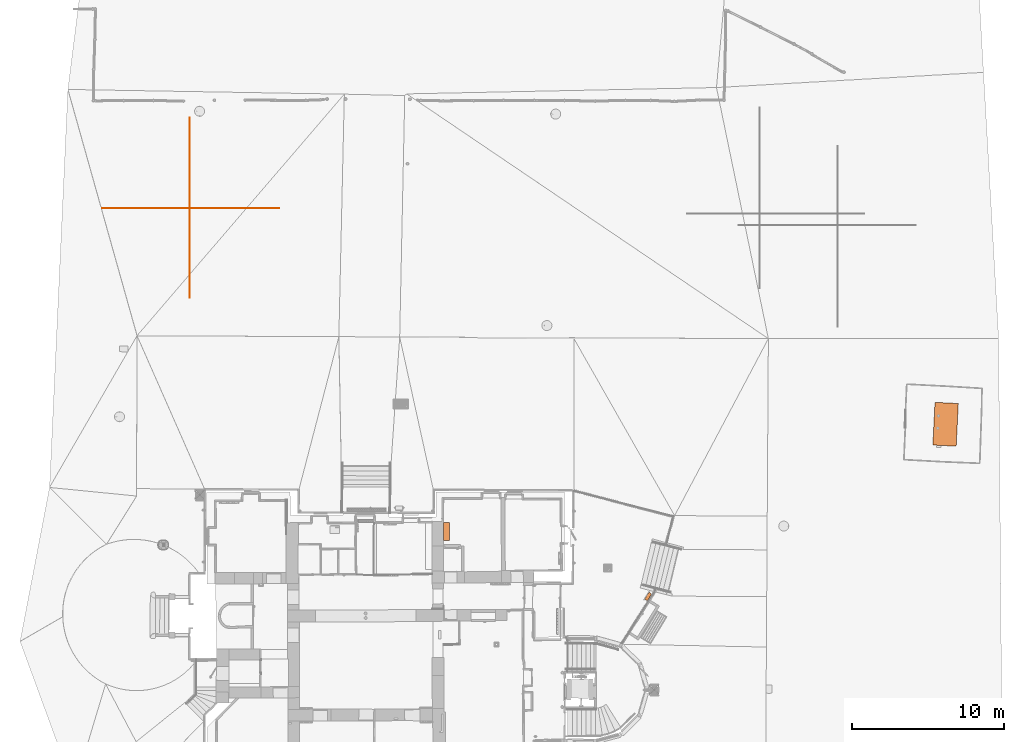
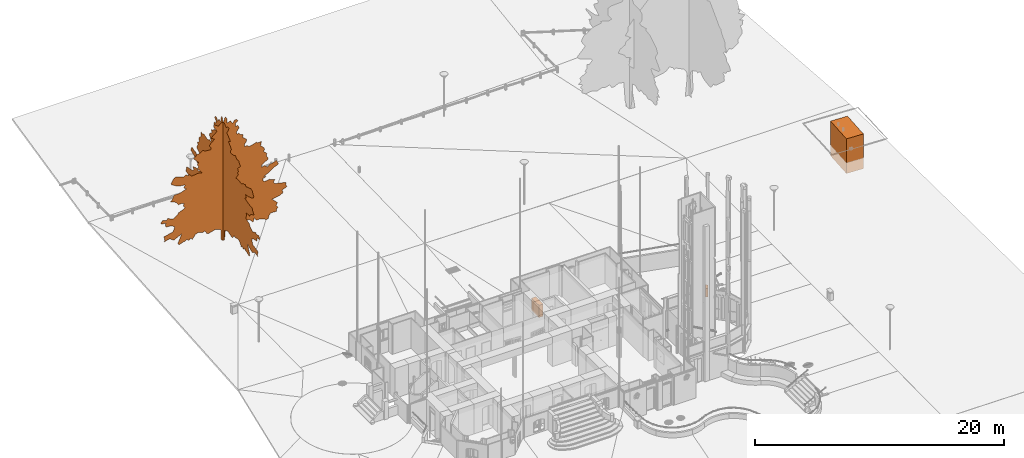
# One storey, part 129 of 133: 4 proxies.
"""IFC2X3 building model written with IfcOpenShell, lengths in centimetres."""

from ifc_helpers import new_model, entity, si_unit, converted_unit, direction, frame, origin, origin_with_axes, place, context, subcontext, project, spatial, faceted_brep, source, transform, mapped, material, element, save


model = new_model("IFC2X3")

# Units and contexts
model_context = context("Model", 3, precision=0.0001, world=origin(), true_north=direction((0.225632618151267, 0.974212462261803, 0.0)))
body_context = subcontext(model_context, "Body", "Model", "MODEL_VIEW")
ifc_project = project(units=[si_unit("LENGTHUNIT", "METRE", prefix="CENTI"), si_unit("AREAUNIT", "SQUARE_METRE", prefix="CENTI"), si_unit("VOLUMEUNIT", "CUBIC_METRE", prefix="CENTI"), converted_unit("PLANEANGLEUNIT", "DEGREE", entity("IfcRatioMeasure", 0.0174532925), si_unit("PLANEANGLEUNIT", "RADIAN"), dimensions=[0, 0, 0, 0, 0, 0, 0])], contexts=[model_context])

# Site, building, storey
site_placement = place(None, origin_with_axes())
site = spatial("IfcSite", under=ifc_project, at=site_placement, Name="Default Site", CompositionType="ELEMENT")
building_placement = place(site_placement, origin_with_axes())
building = spatial("IfcBuilding", under=site, at=building_placement, Name="Default Building", CompositionType="ELEMENT")
storey_placement = place(building_placement, frame((0.0, 0.0, -291.400371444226), z_axis=(0.0, 0.0, 1.0), x_axis=(1.0, 0.0, 0.0)))
storey = spatial("IfcBuildingStorey", under=building, at=storey_placement, Name="Rez-de-Jardin", CompositionType="ELEMENT", Elevation=-291.400371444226)

# Proxies
ifc_material_1 = material(Name="<Nouvel Arbre...> Élévation")
shared_shape = source(origin_with_axes(), body_context, "Body", "Brep", [
    faceted_brep([(391.210198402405, -1.3283548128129e-05, 303.892183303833), (430.132341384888, -1.35452921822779e-05, 309.880208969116), (433.126354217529, -1.31526752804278e-05, 300.898170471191), (424.144315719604, -1.13204644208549e-05, 258.982014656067), (463.066482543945, -9.61912416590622e-06, 220.059847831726), (469.054508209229, -8.57214630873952e-06, 196.107757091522), (457.078456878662, -7.65604097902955e-06, 175.14967918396), (496.000623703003, -6.08557353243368e-06, 139.22153711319), (487.018585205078, -5.0385953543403e-06, 115.269434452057), (510.970687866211, -3.3372560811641e-06, 76.3472855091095), (504.982662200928, -2.6828949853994e-06, 61.377227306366), (436.120367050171, -8.50684340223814e-07, 19.4610580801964), (433.126354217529, 4.58038101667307e-07, -10.4790613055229), (472.04852104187, 6.54218823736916e-08, -1.49702560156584), (498.994636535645, 1.24327251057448e-06, -28.4431338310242), (531.928777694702, 6.54226829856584e-08, -1.49702560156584), (552.886867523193, 1.96295209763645e-07, -4.49103750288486), (603.785037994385, -7.19809811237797e-07, 16.4670452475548), (624.743127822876, 1.24327419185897e-06, -28.4431338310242), (621.749114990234, 1.76676304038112e-06, -40.4191792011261), (570.850896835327, 2.68286811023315e-06, -61.3772630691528), (522.946739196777, 4.38420668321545e-06, -100.299417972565), (466.060495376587, 5.56205598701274e-06, -127.24552154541), (463.066482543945, 5.82380052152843e-06, -133.233547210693), (487.018585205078, 6.21641770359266e-06, -142.215585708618), (448.096418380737, 6.73990633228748e-06, -154.191637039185), (451.090431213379, 8.04862872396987e-06, -184.131753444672), (472.04852104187, 8.57211815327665e-06, -196.107804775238), (525.940752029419, 8.17950201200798e-06, -187.125766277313), (546.89884185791, 8.83386320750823e-06, -202.095818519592), (588.814973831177, 9.22648062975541e-06, -211.077857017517), (567.856884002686, 1.04043309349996e-05, -238.023972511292), (585.820960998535, 1.1451308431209e-05, -261.976051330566), (714.563465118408, 1.28909053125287e-05, -294.910192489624), (708.575487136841, 1.40687558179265e-05, -321.856307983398), (723.545503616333, 1.52466055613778e-05, -348.802399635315), (672.647333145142, 1.61627108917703e-05, -369.760489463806), (666.659307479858, 1.64244553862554e-05, -375.748515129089), (681.629371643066, 1.74714338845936e-05, -399.700617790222), (669.6533203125, 1.79949218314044e-05, -411.676645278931), (636.719179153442, 1.87801551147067e-05, -429.64072227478), (552.886867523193, 1.93036431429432e-05, -441.616773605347), (615.761089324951, 2.21828343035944e-05, -507.485055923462), (597.797012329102, 2.33606825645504e-05, -534.431123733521), (618.755102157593, 2.46694057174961e-05, -564.371252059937), (606.779050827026, 2.54546392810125e-05, -582.335329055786), (606.779050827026, 2.66324898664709e-05, -609.281444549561), (537.916803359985, 2.65016166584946e-05, -606.287431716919), (519.952726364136, 2.7417722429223e-05, -627.24552154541), (510.970687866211, 2.91190620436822e-05, -666.167688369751), (496.000623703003, 2.92499341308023e-05, -669.161701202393), (415.16227722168, 2.78103378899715e-05, -636.227560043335), (376.240134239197, 2.78103373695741e-05, -636.227560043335), (352.288055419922, 2.62398696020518e-05, -600.299406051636), (343.306016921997, 2.7941209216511e-05, -639.221572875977), (334.323978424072, 2.80720813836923e-05, -642.215585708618), (295.401811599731, 2.62398688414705e-05, -600.299406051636), (259.47368144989, 2.59781237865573e-05, -594.311380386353), (226.539540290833, 2.66324847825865e-05, -609.281444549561), (139.713215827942, 2.40150378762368e-05, -549.401187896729), (115.761125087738, 2.58472495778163e-05, -591.317367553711), (94.8030352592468, 2.61089938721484e-05, -597.305393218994), (52.8868675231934, 2.38841644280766e-05, -546.407175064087), (37.9168093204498, 2.42767810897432e-05, -555.389213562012), (28.934770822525, 2.51928869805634e-05, -576.347303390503), (16.9587254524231, 3.13438822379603e-05, -717.065858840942), (13.9647126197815, 3.21291159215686e-05, -735.029935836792), (-3.99935841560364, 3.27834771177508e-05, -750.0), (-27.951455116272, 3.17364984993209e-05, -726.047897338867), (-27.951455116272, 2.66324813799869e-05, -609.281444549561), (-69.867616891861, 2.57163748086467e-05, -588.323354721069), (-96.8137264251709, 2.55855021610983e-05, -585.329341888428), (-165.67599773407, 2.65016072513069e-05, -606.287431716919), (-186.634087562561, 2.61089901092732e-05, -597.305393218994), (-207.592177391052, 2.44076500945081e-05, -558.383226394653), (-219.568228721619, 2.49311390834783e-05, -570.35927772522), (-291.424512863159, 2.41459043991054e-05, -552.39520072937), (-315.376615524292, 2.46693932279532e-05, -564.371252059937), (-351.304745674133, 2.67633493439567e-05, -612.275457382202), (-354.298758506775, 2.61089878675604e-05, -597.305393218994), (-372.262835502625, 2.58472430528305e-05, -591.317367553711), (-390.226912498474, 2.67633488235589e-05, -612.275457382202), (-414.178991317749, 2.57163702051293e-05, -588.323354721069), (-441.125106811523, 2.66324758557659e-05, -609.281444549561), (-441.125106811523, 2.63707312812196e-05, -603.293418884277), (-501.005363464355, 2.72868364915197e-05, -624.251508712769), (-512.981414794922, 2.66324748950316e-05, -609.281444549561), (-509.98740196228, 2.59781134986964e-05, -594.311380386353), (-471.065235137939, 2.19210751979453e-05, -501.497030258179), (-560.885572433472, 2.38841562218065e-05, -546.407175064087), (-605.795764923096, 2.24445625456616e-05, -513.473081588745), (-671.663999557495, 2.30989210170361e-05, -528.443098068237), (-662.682008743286, 2.23136894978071e-05, -510.479068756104), (-671.663999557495, 2.03506050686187e-05, -465.568876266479), (-569.867610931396, 1.93036281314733e-05, -441.616773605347), (-548.909521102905, 1.69479282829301e-05, -387.724566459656), (-584.837675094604, 1.57700772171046e-05, -360.778450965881), (-644.717931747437, 1.55083318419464e-05, -354.790425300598), (-656.693983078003, 1.48539702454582e-05, -339.82036113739), (-650.70595741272, 1.35452484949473e-05, -309.880256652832), (-698.61011505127, 1.30217587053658e-05, -297.904205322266), (-710.586166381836, 1.2629141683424e-05, -288.922166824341), (-686.634063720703, 1.13204191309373e-05, -258.982038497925), (-641.723918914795, 1.19747811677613e-05, -273.952102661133), (-629.747867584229, 1.11895476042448e-05, -255.988025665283), (-563.879585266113, 1.26291436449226e-05, -288.922166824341), (-563.879585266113, 1.23673990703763e-05, -282.934141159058), (-515.975427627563, 1.092780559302e-05, -250.000023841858), (-503.999376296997, 1.00116997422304e-05, -229.041934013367), (-438.131093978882, 8.8338500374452e-06, -202.095818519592), (-435.13708114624, 8.31036144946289e-06, -190.119779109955), (-453.10115814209, 7.26338291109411e-06, -166.167676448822), (-444.119119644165, 5.95466067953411e-06, -136.227560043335), (-489.029312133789, 5.56204321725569e-06, -127.24552154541), (-503.999376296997, 5.95465987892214e-06, -136.227560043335), (-536.933469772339, 3.9915759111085e-06, -91.3173854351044), (-596.813726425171, 2.81372478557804e-06, -64.3712759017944), (-575.85563659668, 1.76674702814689e-06, -40.4191792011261), (-557.89155960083, -6.54641347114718e-08, 1.49698629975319), (-492.023324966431, -1.96335508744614e-07, 4.49099838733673), (-417.173004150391, -1.37418470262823e-06, 31.4371049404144), (-447.113132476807, -2.2902908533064e-06, 52.3951888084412), (-429.149055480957, -3.72988525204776e-06, 85.3293180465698), (-480.047273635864, -3.99163050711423e-06, 91.317343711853), (-533.939456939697, -4.77686495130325e-06, 109.281420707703), (-587.831687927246, -6.21646031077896e-06, 142.215549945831), (-590.825700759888, -6.87082126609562e-06, 157.18560218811), (-557.89155960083, -9.22652095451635e-06, 211.077809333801), (-533.939456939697, -9.619137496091e-06, 220.059847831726), (-444.119119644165, -8.17954165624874e-06, 187.125718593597), (-423.161029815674, -8.83390333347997e-06, 202.095794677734), (-393.220925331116, -8.17954097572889e-06, 187.125718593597), (-381.244874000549, -8.44128539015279e-06, 193.113744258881), (-360.286784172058, -7.26343504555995e-06, 166.167640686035), (-273.46043586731, -7.65605074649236e-06, 175.14967918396), (-237.532305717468, -7.13256111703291e-06, 163.173627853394), (-294.418525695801, -1.04043680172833e-05, 238.023924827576), (-276.454448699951, -1.10587292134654e-05, 252.993988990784), (-294.418525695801, -1.21057077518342e-05, 276.946091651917), (-279.448461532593, -1.34144293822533e-05, 306.886196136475), (-336.334681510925, -1.61627471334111e-05, 369.76044178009), (-312.38260269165, -1.69479805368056e-05, 387.72451877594), (-300.406551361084, -1.7994957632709e-05, 411.676597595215), (-264.478397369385, -1.78640848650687e-05, 408.682584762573), (-234.538292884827, -1.90419350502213e-05, 435.628700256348), (-201.604151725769, -1.82567008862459e-05, 417.664623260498), (-141.723906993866, -1.79949555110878e-05, 411.676597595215), (-135.735881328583, -1.89110614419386e-05, 432.634687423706), (-156.693959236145, -2.0088912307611e-05, 459.58080291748), (-153.699946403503, -2.07432737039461e-05, 474.550867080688), (-99.8077392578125, -2.29681018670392e-05, 525.449085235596), (-138.729894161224, -2.41459508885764e-05, 552.395153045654), (-69.867616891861, -2.67633957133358e-05, 612.275409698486), (-105.795764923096, -2.93808419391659e-05, 672.155666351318), (-108.789777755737, -3.04278202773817e-05, 696.107769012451), (-90.8257007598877, -3.04278200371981e-05, 696.107769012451), (-54.8975586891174, -2.92499689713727e-05, 669.161653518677), (-18.9694181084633, -3.06895636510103e-05, 702.095794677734), (4.98267710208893, -3.05586910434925e-05, 699.101781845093), (16.9587254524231, -3.23909008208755e-05, 741.017913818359), (28.934770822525, -3.27835175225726e-05, 749.999952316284), (43.904834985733, -3.16056667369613e-05, 723.05383682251), (40.9108221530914, -2.93808399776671e-05, 672.155666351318), (82.8269898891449, -2.99043285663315e-05, 684.131717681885), (106.779086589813, -2.82029885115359e-05, 645.209550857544), (127.737164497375, -2.96425833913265e-05, 678.143692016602), (148.695254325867, -2.97734553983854e-05, 681.137704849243), (166.659319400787, -2.87264768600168e-05, 657.18560218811), (136.7192029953, -2.75486266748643e-05, 630.239486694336), (139.713215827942, -2.61090314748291e-05, 597.305345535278), (166.659319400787, -2.6239903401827e-05, 600.29935836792), (181.629383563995, -2.48003080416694e-05, 567.365217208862), (151.689267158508, -2.29680985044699e-05, 525.449085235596), (154.683268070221, -2.17902478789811e-05, 498.502969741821), (160.671293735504, -2.16593755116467e-05, 495.50895690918), (175.641357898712, -2.20519921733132e-05, 504.490995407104), (196.599435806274, -2.07432690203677e-05, 474.550867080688), (223.545527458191, -2.04815240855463e-05, 468.562841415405), (220.551514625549, -1.89110566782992e-05, 432.634687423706), (265.461707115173, -1.72097173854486e-05, 393.712544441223), (265.461707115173, -1.64244836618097e-05, 375.748467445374), (238.515591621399, -1.45922730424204e-05, 333.832311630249), (238.515591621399, -1.35452947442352e-05, 309.880208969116), (271.449732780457, -1.38070388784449e-05, 315.868234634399), (295.401811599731, -1.28909325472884e-05, 294.910144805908), (382.22815990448, -1.39379096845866e-05, 318.862247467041), (-3.81679328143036e-06, 391.210198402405, 303.892183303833), (-5.25639012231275e-06, 430.132341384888, 309.880208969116), (-5.77987954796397e-06, 433.126354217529, 300.898170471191), (-7.21947332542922e-06, 424.144315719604, 258.982014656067), (-1.0622155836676e-05, 463.066482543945, 220.059847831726), (-1.19308787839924e-05, 469.054508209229, 196.107757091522), (-1.23234944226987e-05, 457.078456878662, 175.14967918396), (-1.55953041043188e-05, 496.000623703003, 139.22153711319), (-1.62496650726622e-05, 487.018585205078, 115.269434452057), (-1.89979843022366e-05, 510.970687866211, 76.3472855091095), (-1.939060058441e-05, 504.982662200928, 61.377227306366), (-1.82127449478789e-05, 436.120367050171, 19.4610580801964), (-1.93905951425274e-05, 433.126354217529, -10.4790613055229), (-2.0699320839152e-05, 472.04852104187, -1.49702560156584), (-2.3055023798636e-05, 498.994636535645, -28.4431338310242), (-2.33167708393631e-05, 531.928777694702, -1.49702560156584), (-2.43637506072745e-05, 552.886867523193, -4.49103750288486), (-2.56724751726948e-05, 603.785037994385, 16.4670452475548), (-2.85516667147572e-05, 624.743127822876, -28.4431338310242), (-2.89442831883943e-05, 621.749114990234, -40.4191792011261), (-2.76355565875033e-05, 570.850896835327, -61.3772630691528), (-2.72429381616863e-05, 522.946739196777, -100.299417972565), (-2.5934210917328e-05, 466.060495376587, -127.24552154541), (-2.60650830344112e-05, 463.066482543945, -133.233547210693), (-2.75046799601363e-05, 487.018585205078, -142.215585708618), (-2.63268266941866e-05, 448.096418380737, -154.191637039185), (-2.77664217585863e-05, 451.090431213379, -184.131753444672), (-2.92060184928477e-05, 472.04852104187, -196.107804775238), (-3.11691065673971e-05, 525.940752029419, -187.125766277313), (-3.27395750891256e-05, 546.89884185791, -202.095818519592), (-3.4964404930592e-05, 588.814973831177, -211.077857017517), (-3.52261482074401e-05, 567.856884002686, -238.023972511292), (-3.7058360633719e-05, 585.820960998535, -261.976051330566), (-4.41254714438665e-05, 714.563465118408, -294.910192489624), (-4.50415793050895e-05, 708.575487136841, -321.856307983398), (-4.68737894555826e-05, 723.545503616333, -348.802399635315), (-4.55650651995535e-05, 672.647333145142, -369.760489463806), (-4.55650648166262e-05, 666.659307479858, -375.748515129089), (-4.72664057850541e-05, 681.629371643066, -399.700617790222), (-4.72664039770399e-05, 669.6533203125, -411.676645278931), (-4.66120403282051e-05, 636.719179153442, -429.64072227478), (-4.34711016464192e-05, 552.886867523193, -441.616773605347), (-4.90986128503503e-05, 615.761089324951, -507.485055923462), (-4.94912265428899e-05, 597.797012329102, -534.431123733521), (-5.17160571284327e-05, 618.755102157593, -564.371252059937), (-5.19778009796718e-05, 606.779050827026, -582.335329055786), (-5.31556517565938e-05, 606.779050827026, -609.281444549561), (-5.00147140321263e-05, 537.916803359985, -606.287431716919), (-5.01455851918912e-05, 519.952726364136, -627.24552154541), (-5.1454307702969e-05, 510.970687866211, -666.167688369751), (-5.09308175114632e-05, 496.000623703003, -669.161701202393), (-4.59576646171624e-05, 415.16227722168, -636.227560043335), (-4.42563231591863e-05, 376.240134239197, -636.227560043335), (-4.16388764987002e-05, 352.288055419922, -600.299406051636), (-4.29475990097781e-05, 343.306016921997, -639.221572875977), (-4.26858538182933e-05, 334.323978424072, -642.215585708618), (-3.91522989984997e-05, 295.401811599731, -600.299406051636), (-3.73200854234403e-05, 259.47368144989, -594.311380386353), (-3.65348494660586e-05, 226.539540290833, -609.281444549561), (-3.01221028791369e-05, 139.713215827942, -549.401187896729), (-3.09073357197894e-05, 115.761125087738, -591.317367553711), (-3.02529728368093e-05, 94.8030352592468, -597.305393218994), (-2.61959291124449e-05, 52.8868675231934, -546.407175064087), (-2.5934183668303e-05, 37.9168063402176, -555.389213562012), (-2.64576724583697e-05, 28.934770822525, -576.347303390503), (-3.20851790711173e-05, 16.958723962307, -717.065858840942), (-3.27395404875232e-05, 13.9647126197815, -735.029935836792), (-3.26086672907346e-05, -3.99935841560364, -750.0), (-3.05147090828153e-05, -27.951455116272, -726.047897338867), (-2.54106911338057e-05, -27.951455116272, -609.281444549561), (-2.26623707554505e-05, -69.867616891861, -588.323354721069), (-2.13536462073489e-05, -96.8137264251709, -585.329341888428), (-1.92596859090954e-05, -165.67599773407, -606.287431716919), (-1.79509614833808e-05, -186.634087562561, -597.305393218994), (-1.53335139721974e-05, -207.592177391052, -558.383226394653), (-1.53335132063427e-05, -219.568228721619, -570.35927772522), (-1.14073403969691e-05, -291.424512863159, -552.39520072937), (-1.08838496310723e-05, -315.376615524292, -564.371252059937), (-1.14073376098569e-05, -351.304745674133, -612.275457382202), (-1.06221035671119e-05, -354.298758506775, -597.305393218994), (-9.57512394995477e-06, -372.262835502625, -591.317367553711), (-9.70599510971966e-06, -390.226912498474, -612.275457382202), (-7.61203768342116e-06, -414.178991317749, -588.323354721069), (-7.35029134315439e-06, -441.125106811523, -609.281444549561), (-7.08854672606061e-06, -441.125106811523, -603.293418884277), (-5.38720288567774e-06, -501.005363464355, -624.251508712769), (-4.20935134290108e-06, -512.981414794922, -609.281444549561), (-3.68586230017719e-06, -509.98740196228, -594.311380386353), (-1.33016531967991e-06, -471.065235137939, -501.497030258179), (6.3292505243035e-07, -560.885572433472, -546.407175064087), (4.03560586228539e-06, -605.795764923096, -513.473081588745), (6.2604393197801e-06, -671.663999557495, -528.443098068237), (6.65305567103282e-06, -662.682008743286, -510.479068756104), (9.00875571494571e-06, -671.663999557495, -465.568876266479), (5.60607126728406e-06, -569.867610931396, -441.616773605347), (7.04566427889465e-06, -548.909521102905, -387.724566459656), (9.79398505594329e-06, -584.837675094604, -360.778450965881), (1.26731796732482e-05, -644.717931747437, -354.790425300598), (1.38510312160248e-05, -656.693983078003, -339.82036113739), (1.48980082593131e-05, -650.70595741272, -309.880256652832), (1.75154554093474e-05, -698.61011505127, -297.904205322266), (1.84315623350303e-05, -710.586166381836, -288.922166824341), (1.86933054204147e-05, -686.634063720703, -258.982038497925), (1.60758584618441e-05, -641.723918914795, -273.952102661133), (1.63376023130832e-05, -629.747867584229, -255.988025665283), (1.20188119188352e-05, -563.879585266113, -288.922166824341), (1.2280556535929e-05, -563.879585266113, -282.934141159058), (1.16261929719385e-05, -515.975427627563, -250.000023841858), (1.20188091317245e-05, -503.999376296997, -229.041934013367), (1.03174649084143e-05, -438.131093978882, -202.095818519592), (1.07100811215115e-05, -435.13708114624, -190.119779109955), (1.25422945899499e-05, -453.10115814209, -166.167676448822), (1.34583996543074e-05, -444.119119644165, -136.227560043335), (1.58141040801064e-05, -489.029312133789, -127.24552154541), (1.60758496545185e-05, -503.999376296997, -136.227560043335), (1.94785289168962e-05, -536.933469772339, -91.3173854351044), (2.32738294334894e-05, -596.813726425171, -64.3712759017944), (2.34047001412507e-05, -575.85563659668, -40.4191792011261), (2.44516768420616e-05, -557.89155960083, 1.49698629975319), (2.17033562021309e-05, -492.023324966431, 4.49099838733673), (1.96093940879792e-05, -417.173004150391, 31.4371049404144), (2.18342249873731e-05, -447.113132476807, 52.3951888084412), (2.24885848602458e-05, -429.149055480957, 85.3293180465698), (2.4975161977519e-05, -480.047273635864, 91.317343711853), (2.81160987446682e-05, -533.939456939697, 109.281420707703), (3.19113986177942e-05, -587.831687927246, 142.215549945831), (3.26966321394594e-05, -590.825700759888, 157.18560218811), (3.36127351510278e-05, -557.89155960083, 211.077809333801), (3.2958372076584e-05, -533.939456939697, 220.059847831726), (2.75926042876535e-05, -444.119119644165, 187.125718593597), (2.73308588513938e-05, -423.161029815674, 202.095794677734), (2.53677728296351e-05, -393.220925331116, 187.125718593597), (2.51060274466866e-05, -381.244874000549, 193.113744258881), (2.30120696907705e-05, -360.286784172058, 166.167640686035), (1.96093851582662e-05, -273.46043586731, 175.14967918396), (1.7515426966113e-05, -237.532305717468, 163.173627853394), (2.32738100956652e-05, -294.418525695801, 238.023924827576), (2.31429366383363e-05, -276.454448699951, 252.993988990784), (2.49751501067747e-05, -294.418525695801, 276.946091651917), (2.56295096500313e-05, -279.448461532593, 306.886196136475), (3.08644035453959e-05, -336.334681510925, 369.76044178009), (3.06026584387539e-05, -312.38260269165, 387.72451877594), (3.11261458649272e-05, -300.406551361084, 411.676597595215), (2.94248035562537e-05, -264.478397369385, 408.682584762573), (2.92939303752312e-05, -234.538292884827, 435.628700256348), (2.70690990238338e-05, -201.604151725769, 417.664623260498), (2.41899049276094e-05, -141.723906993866, 411.676597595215), (2.48442660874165e-05, -135.735881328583, 432.634687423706), (2.69382238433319e-05, -156.693959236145, 459.58080291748), (2.74617128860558e-05, -153.699946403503, 474.550867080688), (2.73308381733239e-05, -99.8077392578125, 525.449085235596), (3.02100288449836e-05, -138.729894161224, 552.395153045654), (2.98174082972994e-05, -69.867616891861, 612.275409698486), (3.40053242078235e-05, -105.795764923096, 672.155666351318), (3.51831751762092e-05, -108.789777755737, 696.107769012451), (3.43979401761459e-05, -90.8257007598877, 696.107769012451), (3.16496199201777e-05, -54.8975586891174, 669.161653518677), (3.15187459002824e-05, -18.9694181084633, 702.095794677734), (3.03408939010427e-05, 4.98267747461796, 699.101781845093), (3.16496142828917e-05, 16.9587254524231, 741.017913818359), (3.15187413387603e-05, 28.9347738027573, 749.999952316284), (2.96865281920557e-05, 43.904834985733, 723.05383682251), (2.75925735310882e-05, 40.9108221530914, 672.155666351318), (2.62838482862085e-05, 82.8269898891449, 684.131717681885), (2.35355285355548e-05, 106.779086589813, 645.209550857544), (2.40590169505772e-05, 127.737164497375, 678.143692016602), (2.32737817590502e-05, 148.695254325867, 681.137704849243), (2.14415688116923e-05, 166.659319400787, 657.18560218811), (2.15724425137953e-05, 136.7192029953, 630.239486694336), (2.0001974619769e-05, 139.713215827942, 597.305345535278), (1.89549949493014e-05, 166.659319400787, 600.29935836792), (1.68610370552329e-05, 181.629383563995, 567.365217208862), (1.63375512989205e-05, 151.689267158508, 525.449085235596), (1.50288285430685e-05, 154.683268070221, 498.502969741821), (1.46362112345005e-05, 160.671293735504, 495.50895690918), (1.43744656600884e-05, 175.641357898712, 504.490995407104), (1.21496355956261e-05, 196.599435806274, 474.550867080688), (1.07100395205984e-05, 223.545527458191, 468.562841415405), (9.2704443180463e-06, 220.551514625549, 432.634687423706), (5.60601784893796e-06, 265.461707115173, 393.712544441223), (4.82078399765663e-06, 265.461707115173, 375.748467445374), (4.16642522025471e-06, 238.515591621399, 333.832311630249), (3.1194467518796e-06, 238.515591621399, 309.880208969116), (1.94159386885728e-06, 271.449732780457, 315.868234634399), (-2.14912488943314e-08, 295.401811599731, 294.910144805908), (-2.76981423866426e-06, 382.22815990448, 318.862247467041)], [[[0, 1, 2, 3, 4, 5, 6, 7, 8, 9, 10, 11, 12, 13, 14, 15, 16, 17, 18, 19, 20, 21, 22, 23, 24, 25, 26, 27, 28, 29, 30, 31, 32, 33, 34, 35, 36, 37, 38, 39, 40, 41, 42, 43, 44, 45, 46, 47, 48, 49, 50, 51, 52, 53, 54, 55, 56, 57, 58, 59, 60, 61, 62, 63, 64, 65, 66, 67, 68, 69, 70, 71, 72, 73, 74, 75, 76, 77, 78, 79, 80, 81, 82, 83, 84, 85, 86, 87, 88, 89, 90, 91, 92, 93, 94, 95, 96, 97, 98, 99, 100, 101, 102, 103, 104, 105, 106, 107, 108, 109, 110, 111, 112, 113, 114, 115, 116, 117, 118, 119, 120, 121, 122, 123, 124, 125, 126, 127, 128, 129, 130, 131, 132, 133, 134, 135, 136, 137, 138, 139, 140, 141, 142, 143, 144, 145, 146, 147, 148, 149, 150, 151, 152, 153, 154, 155, 156, 157, 158, 159, 160, 161, 162, 163, 164, 165, 166, 167, 168, 169, 170, 171, 172, 173, 174, 175, 176, 177, 178, 179, 180, 181, 182, 183, 184, 185]], [[186, 187, 188, 189, 190, 191, 192, 193, 194, 195, 196, 197, 198, 199, 200, 201, 202, 203, 204, 205, 206, 207, 208, 209, 210, 211, 212, 213, 214, 215, 216, 217, 218, 219, 220, 221, 222, 223, 224, 225, 226, 227, 228, 229, 230, 231, 232, 233, 234, 235, 236, 237, 238, 239, 240, 241, 242, 243, 244, 245, 246, 247, 248, 249, 250, 251, 252, 253, 254, 255, 256, 257, 258, 259, 260, 261, 262, 263, 264, 265, 266, 267, 268, 269, 270, 271, 272, 273, 274, 275, 276, 277, 278, 279, 280, 281, 282, 283, 284, 285, 286, 287, 288, 289, 290, 291, 292, 293, 294, 295, 296, 297, 298, 299, 300, 301, 302, 303, 304, 305, 306, 307, 308, 309, 310, 311, 312, 313, 314, 315, 316, 317, 318, 319, 320, 321, 322, 323, 324, 325, 326, 327, 328, 329, 330, 331, 332, 333, 334, 335, 336, 337, 338, 339, 340, 341, 342, 343, 344, 345, 346, 347, 348, 349, 350, 351, 352, 353, 354, 355, 356, 357, 358, 359, 360, 361, 362, 363, 364, 365, 366, 367, 368, 369, 370, 371]]]),
])
proxy_1_placement = place(storey_placement, frame((-1368.09391182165, 2577.73743797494, 113.288034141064), z_axis=(0.0, 0.0, 1.0), x_axis=(1.0, 0.0, 0.0)))
element("IfcBuildingElementProxy", 1, at=proxy_1_placement, inside=storey, material=ifc_material_1, Name="Arbre 303642", context=body_context, shape_type="MappedRepresentation", body=[
    mapped(shared_shape, transform((5.18376231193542, 35.5055379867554, 598.4), x_axis=(1.0, 0.0, 0.0), y_axis=(0.0, 1.0, 0.0), z_axis=(0.0, 0.0, 1.0), scale=0.817481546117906, scale2=0.831484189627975, scale3=0.800000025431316, uniform=False)),
])
ifc_material_2 = material(Name="Blanc")
proxy_2_placement = place(storey_placement, frame((3532.21, 1339.44, 0.0), z_axis=(0.0, 0.0, 1.0), x_axis=(1.0, 0.0, 0.0)))
element("IfcBuildingElementProxy", 2, at=proxy_2_placement, inside=storey, material=ifc_material_2, Name="Encombrement 1824235", context=body_context, shape_type="Brep", body=[
    faceted_brep([(0.000159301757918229, -3.5705567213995e-05, 340.138135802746), (-13.9799432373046, -280.390012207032, 340.138135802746), (139.182059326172, -288.026559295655, 340.138135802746), (153.161780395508, -7.63648742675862, 340.138135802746), (0.000159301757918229, -3.5705567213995e-05, 1.03831293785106e-05), (-13.9798399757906, -280.390017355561, 1.03831293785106e-05), (-13.9798399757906, -280.390017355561, 340.138135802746), (-13.9799432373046, -280.390012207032, 1.03831293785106e-05), (139.18206049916, -288.02653576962, 1.03831293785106e-05), (139.18206049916, -288.02653576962, 340.138135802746), (139.182059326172, -288.026559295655, 1.03831293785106e-05), (153.16206240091, -7.63650148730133, 1.03831293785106e-05), (153.16206240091, -7.63650148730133, 340.138135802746), (153.161780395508, -7.63648742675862, 1.03831293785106e-05), (0.000161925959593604, 1.69267573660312e-05, 1.03831293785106e-05), (0.000161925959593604, 1.69267573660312e-05, 340.138135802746)], [[[0, 1, 2, 3]], [[4, 5, 6, 0]], [[7, 8, 9, 1]], [[10, 11, 12, 2]], [[13, 14, 15, 3]], [[13, 10, 7, 4]]]),
])
proxy_3_placement = place(storey_placement, frame((1671.04466420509, 80.6325336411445, 65.0), z_axis=(0.0, 0.0, 1.0), x_axis=(1.0, 0.0, 0.0)))
element("IfcBuildingElementProxy", 3, at=proxy_3_placement, inside=storey, material=ifc_material_2, Name="Encombrement 1702009", context=body_context, shape_type="Brep", body=[
    faceted_brep([(6.69350491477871e-05, -1.99823070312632e-06, 84.9999984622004), (-17.0747087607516, 12.0874682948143, 84.9999984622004), (-45.9145830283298, -33.5325350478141, 84.9999984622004), (-27.0175264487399, -43.4540053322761, 84.9999984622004), (6.69350491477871e-05, -1.99823070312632e-06, -3.92198535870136e-06), (-17.074672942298, 12.0875188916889, -3.92198535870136e-06), (-17.074672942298, 12.0875188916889, 84.9999984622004), (-17.0747087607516, 12.0874682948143, -3.92198535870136e-06), (-45.9146747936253, -33.5324770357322, -3.92198535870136e-06), (-45.9146747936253, -33.5324770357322, 84.9999984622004), (-45.9145830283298, -33.5325350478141, -3.92198535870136e-06), (-27.0175254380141, -43.4540034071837, -3.92198535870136e-06), (-27.0175254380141, -43.4540034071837, 84.9999984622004), (-27.0175264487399, -43.4540053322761, -3.92198535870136e-06), (6.99289610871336e-05, -3.85970034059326e-06, -3.92198535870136e-06), (6.99289610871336e-05, -3.85970034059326e-06, 84.9999984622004)], [[[0, 1, 2, 3]], [[4, 5, 6, 0]], [[7, 8, 9, 1]], [[10, 11, 12, 2]], [[13, 14, 15, 3]], [[13, 10, 7, 4]]]),
])
proxy_4_placement = place(storey_placement, frame((303.541296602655, 551.229068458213, 94.0), z_axis=(0.0, 0.0, 1.0), x_axis=(1.0, 0.0, 0.0)))
element("IfcBuildingElementProxy", 4, at=proxy_4_placement, inside=storey, material=ifc_material_2, Name="Encombrement 78464", context=body_context, shape_type="Brep", body=[
    faceted_brep([(6.07831407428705e-06, -2.06829443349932e-05, 119.400374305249), (1.59328591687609, -119.801446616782, 119.400374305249), (40.7120050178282, -119.886800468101, 119.400374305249), (41.1097348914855, -0.136682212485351, 119.400374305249), (6.07831407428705e-06, -2.06829443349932e-05, 4.18424634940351e-06), (1.59330276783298, -119.801446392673, 4.18424634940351e-06), (1.59330276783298, -119.801446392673, 119.400374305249), (1.59328591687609, -119.801446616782, 4.18424634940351e-06), (40.7120049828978, -119.886816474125, 4.18424634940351e-06), (40.7120049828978, -119.886816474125, 119.400374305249), (40.7120050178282, -119.886800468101, 4.18424634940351e-06), (41.1097192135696, -0.136682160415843, 4.18424634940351e-06), (41.1097192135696, -0.136682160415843, 119.400374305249), (41.1097348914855, -0.136682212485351, 4.18424634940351e-06), (6.18768601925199e-06, 1.22097729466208e-05, 4.18424634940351e-06), (6.18768601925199e-06, 1.22097729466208e-05, 119.400374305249)], [[[0, 1, 2, 3]], [[4, 5, 6, 0]], [[7, 8, 9, 1]], [[10, 11, 12, 2]], [[13, 14, 15, 3]], [[13, 10, 7, 4]]]),
])

save(model, "model.ifc")
